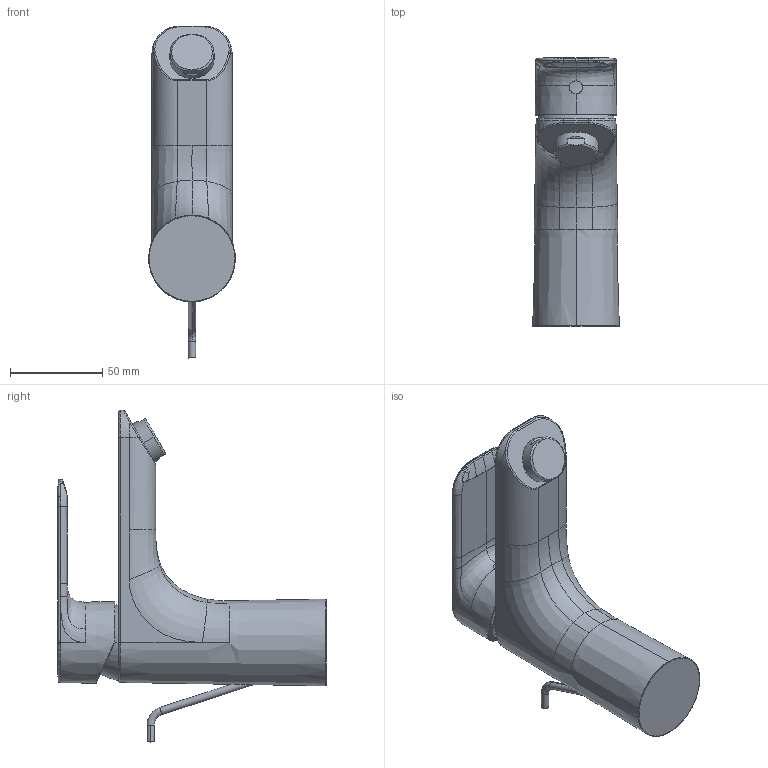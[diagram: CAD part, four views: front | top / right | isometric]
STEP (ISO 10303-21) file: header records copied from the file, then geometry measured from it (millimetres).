
FILE_DESCRIPTION (( 'STEP AP203' ), '1' );
FILE_NAME ('1603FN(2025).STEP', '2024-12-03T08:22:51', ( '' ), ( '' ), 'SwSTEP 2.0', 'SolidWorks 2024', '' );
FILE_SCHEMA (( 'CONFIG_CONTROL_DESIGN' ));
Length unit declared in the file: millimetre
Products named in the file (1): 1603FN(2025)
Bounding box: 46.99 x 145.45 x 179.9 mm (x, y, z)
Volume: 333780.5 mm3; surface area: 42900.4 mm2
Topology: 1 solids, 1 shells, 164 faces, 409 edges, 248 vertices
Faces by surface type: bspline 117, cylinder 19, plane 19, cone 7, torus 2
Entity records: 13234 total; most frequent: CARTESIAN_POINT 10200, ORIENTED_EDGE 818, EDGE_CURVE 409, DIRECTION 351, VERTEX_POINT 248, B_SPLINE_CURVE_WITH_KNOTS 183, EDGE_LOOP 165, FACE_OUTER_BOUND 164
